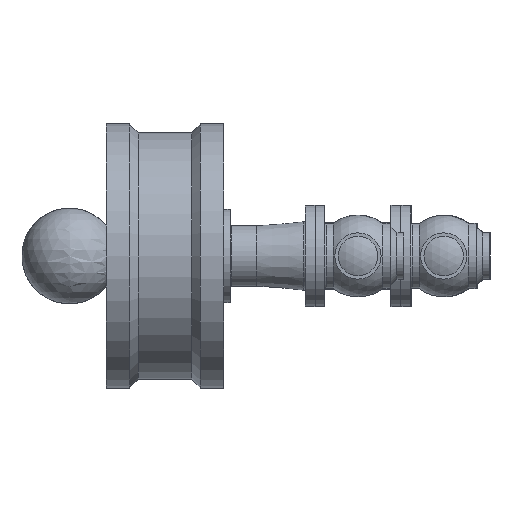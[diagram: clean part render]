
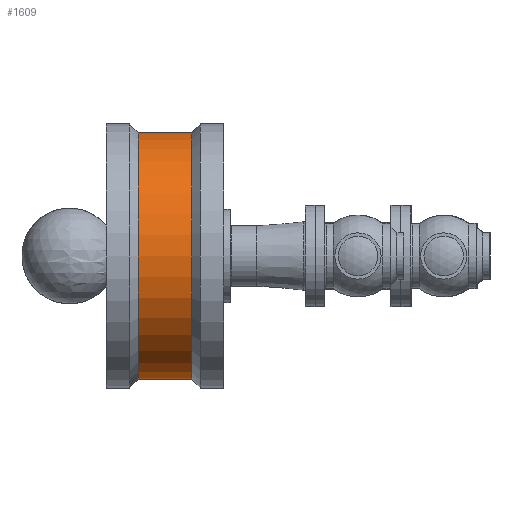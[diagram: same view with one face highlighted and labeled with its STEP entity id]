
A CAD part, left-side view. The second image highlights one B-rep face of the part: STEP entity #1609.
In plain terms, the highlighted cylindrical face has radius 187 mm (diameter 374 mm), a full revolution.
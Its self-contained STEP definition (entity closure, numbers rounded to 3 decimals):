
#248=FACE_OUTER_BOUND('',#347,.T.);
#347=EDGE_LOOP('',(#1172,#1173,#1174,#1175,#1176,#1177));
#463=LINE('',#2905,#506);
#506=VECTOR('',#2253,187.);
#566=CIRCLE('',#1885,187.);
#567=CIRCLE('',#1886,187.);
#570=CIRCLE('',#1890,187.);
#571=CIRCLE('',#1891,187.);
#744=VERTEX_POINT('',#2891);
#745=VERTEX_POINT('',#2892);
#748=VERTEX_POINT('',#2901);
#749=VERTEX_POINT('',#2902);
#917=EDGE_CURVE('',#744,#745,#566,.T.);
#918=EDGE_CURVE('',#745,#744,#567,.T.);
#922=EDGE_CURVE('',#748,#749,#570,.T.);
#923=EDGE_CURVE('',#749,#748,#571,.T.);
#924=EDGE_CURVE('',#749,#745,#463,.T.);
#1172=ORIENTED_EDGE('',*,*,#922,.F.);
#1173=ORIENTED_EDGE('',*,*,#923,.F.);
#1174=ORIENTED_EDGE('',*,*,#924,.T.);
#1175=ORIENTED_EDGE('',*,*,#918,.T.);
#1176=ORIENTED_EDGE('',*,*,#917,.T.);
#1177=ORIENTED_EDGE('',*,*,#924,.F.);
#1563=CYLINDRICAL_SURFACE('',#1889,187.);
#1609=ADVANCED_FACE('',(#248),#1563,.T.);
#1885=AXIS2_PLACEMENT_3D('',#2893,#2238,#2239);
#1886=AXIS2_PLACEMENT_3D('',#2894,#2240,#2241);
#1889=AXIS2_PLACEMENT_3D('',#2900,#2247,#2248);
#1890=AXIS2_PLACEMENT_3D('',#2903,#2249,#2250);
#1891=AXIS2_PLACEMENT_3D('',#2904,#2251,#2252);
#2238=DIRECTION('center_axis',(0.,0.,1.));
#2239=DIRECTION('ref_axis',(1.,0.,0.));
#2240=DIRECTION('center_axis',(0.,0.,1.));
#2241=DIRECTION('ref_axis',(1.,0.,0.));
#2247=DIRECTION('center_axis',(0.,0.,1.));
#2248=DIRECTION('ref_axis',(1.,0.,0.));
#2249=DIRECTION('center_axis',(0.,0.,1.));
#2250=DIRECTION('ref_axis',(1.,0.,0.));
#2251=DIRECTION('center_axis',(0.,0.,1.));
#2252=DIRECTION('ref_axis',(1.,0.,0.));
#2253=DIRECTION('',(0.,0.,-1.));
#2891=CARTESIAN_POINT('',(187.,0.,51.5));
#2892=CARTESIAN_POINT('',(-187.,0.,51.5));
#2893=CARTESIAN_POINT('Origin',(0.,0.,51.5));
#2894=CARTESIAN_POINT('Origin',(0.,0.,51.5));
#2900=CARTESIAN_POINT('Origin',(0.,0.,92.));
#2901=CARTESIAN_POINT('',(187.,0.,132.5));
#2902=CARTESIAN_POINT('',(-187.,0.,132.5));
#2903=CARTESIAN_POINT('Origin',(0.,0.,132.5));
#2904=CARTESIAN_POINT('Origin',(0.,0.,132.5));
#2905=CARTESIAN_POINT('',(-187.,0.,92.));
